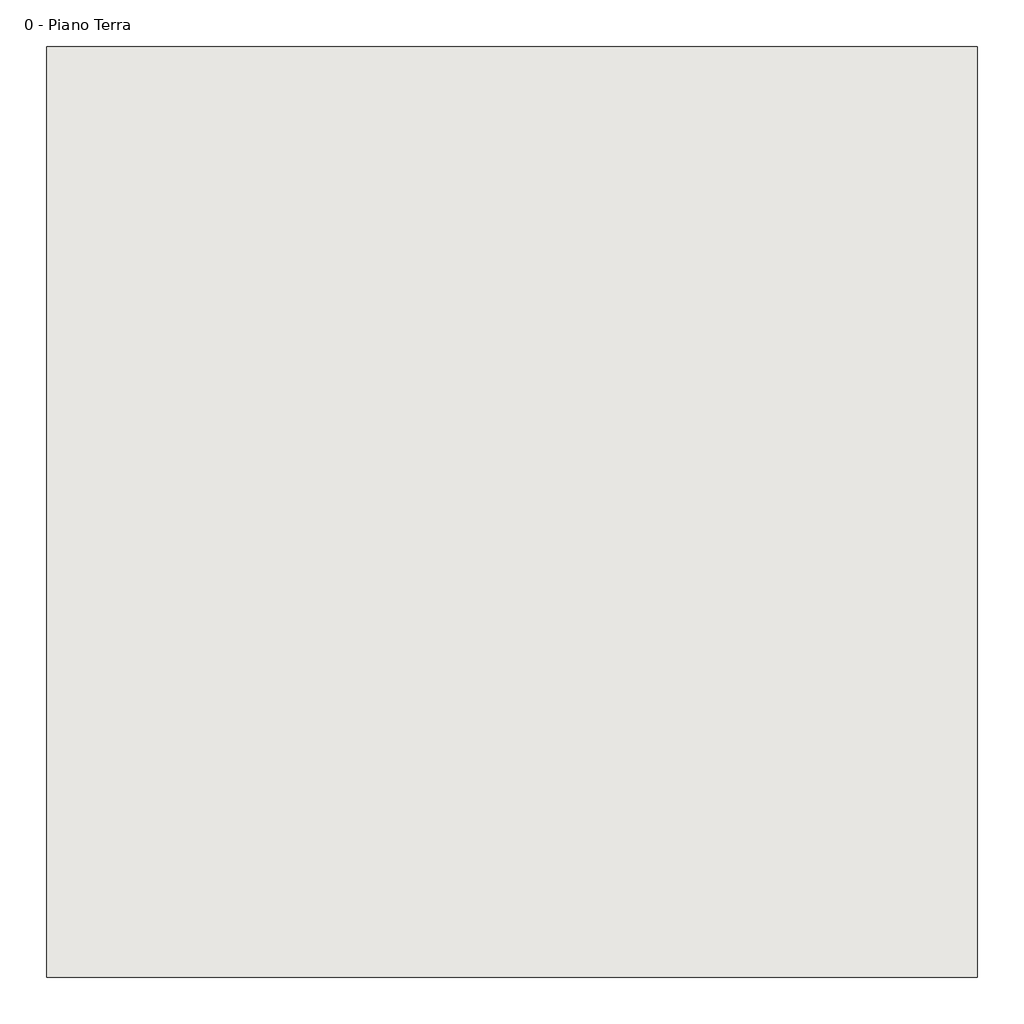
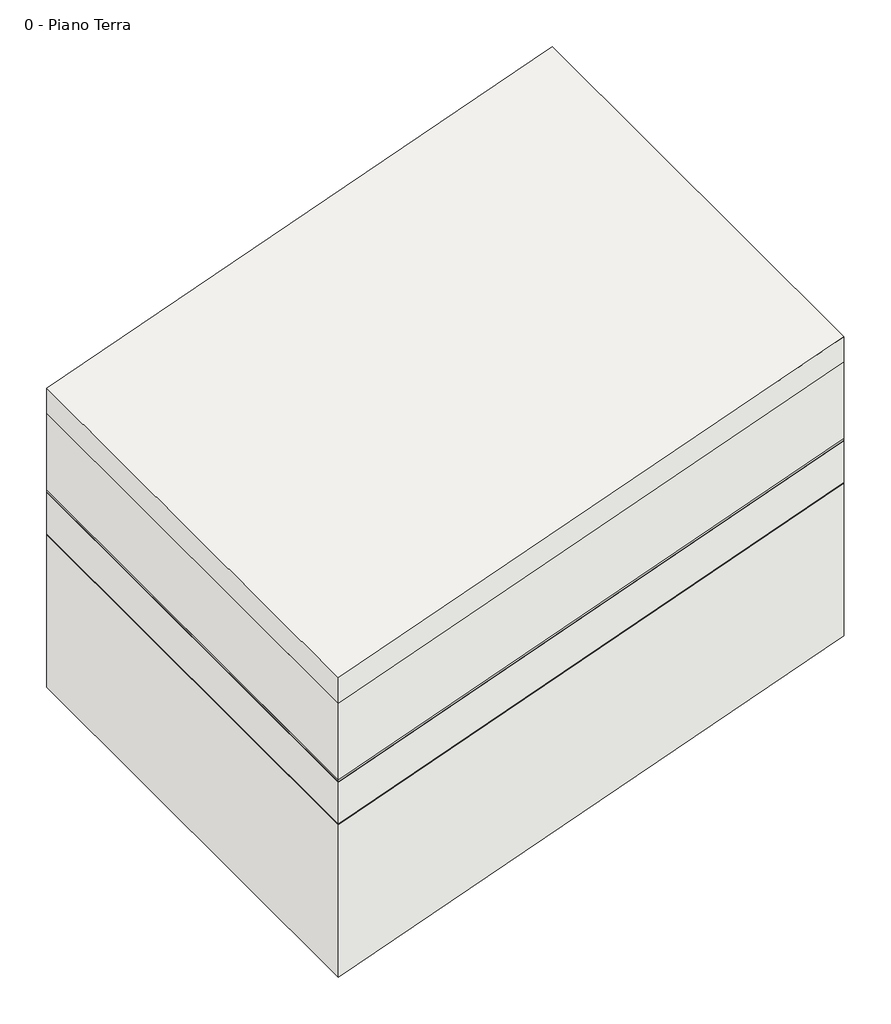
# One storey: 1 roof.
"""IFC4 building model written with IfcOpenShell, lengths in millimetres."""

from ifc_helpers import new_model, si_unit, frame, origin, place, context, project, spatial, polyline, outline, extrude, element, save

model = new_model("IFC4")

# Units and contexts
model_context = context("Model", 3, world=origin())
ifc_project = project(units=[si_unit("LENGTHUNIT", "METRE", prefix="MILLI")], contexts=[model_context])

# Site, building, storey
site = spatial("IfcSite", under=ifc_project)
building = spatial("IfcBuilding", under=site)
storey = spatial("IfcBuildingStorey", under=building, Name="0 - Piano Terra", Elevation=0.0)

# Roof
placement = place(None, origin())
element("IfcRoof", 1, ObjectType="DAKU_INTENSIVO INCLINATO", at=placement, inside=storey, context=model_context, shape_type="SweptSolid", body=[
    extrude(outline(polyline([(560.2388534, 422.0278595), (196.2686191, -577.9721405), (143.0597305, -577.9721405), (507.0299647, 422.0278595), (560.2388534, 422.0278595)])), frame((0.0, -631.1691838, 0.0), z_axis=(0.0, 1.0, 0.0), x_axis=(0.0, 0.0, 1.0)), (0.0, 0.0, 1.0), 1000.0),
    extrude(outline(polyline([(347.4032989, 422.0278595), (507.0299647, 422.0278595), (143.0597305, -577.9721405), (-16.5669354, -577.9721405), (347.4032989, 422.0278595)])), frame((0.0, -631.1691838, 0.0), z_axis=(0.0, 1.0, 0.0), x_axis=(0.0, 0.0, 1.0)), (0.0, 0.0, 1.0), 1000.0),
    extrude(outline(polyline([(343.6786767, 422.0278595), (347.4032989, 422.0278595), (-16.5669354, -577.9721405), (-20.2915576, -577.9721405), (343.6786767, 422.0278595)])), frame((0.0, -631.1691838, 0.0), z_axis=(0.0, 1.0, 0.0), x_axis=(0.0, 0.0, 1.0)), (0.0, 0.0, 1.0), 1000.0),
    extrude(outline(polyline([(342.2952456, 422.0278595), (343.6786767, 422.0278595), (-20.2915576, -577.9721405), (-21.6749887, -577.9721405), (342.2952456, 422.0278595)])), frame((0.0, -631.1691838, 0.0), z_axis=(0.0, 1.0, 0.0), x_axis=(0.0, 0.0, 1.0)), (0.0, 0.0, 1.0), 1000.0),
    extrude(outline(polyline([(255.0326682, 422.0278595), (342.2952456, 422.0278595), (-21.6749887, -577.9721405), (-108.937566, -577.9721405), (255.0326682, 422.0278595)])), frame((0.0, -631.1691838, 0.0), z_axis=(0.0, 1.0, 0.0), x_axis=(0.0, 0.0, 1.0)), (0.0, 0.0, 1.0), 1000.0),
    extrude(outline(polyline([(253.223566, 422.0278595), (255.0326682, 422.0278595), (-108.937566, -577.9721405), (-110.7466683, -577.9721405), (253.223566, 422.0278595)])), frame((0.0, -631.1691838, 0.0), z_axis=(0.0, 1.0, 0.0), x_axis=(0.0, 0.0, 1.0)), (0.0, 0.0, 1.0), 1000.0),
    extrude(outline(polyline([(-430.0, -577.9721405), (-66.0297657, 422.0278595), (253.223566, 422.0278595), (-110.7466683, -577.9721405), (-430.0, -577.9721405)])), frame((0.0, -631.1691838, 0.0), z_axis=(0.0, 1.0, 0.0), x_axis=(0.0, 0.0, 1.0)), (0.0, 0.0, 1.0), 1000.0),
])

save(model, "model.ifc")
